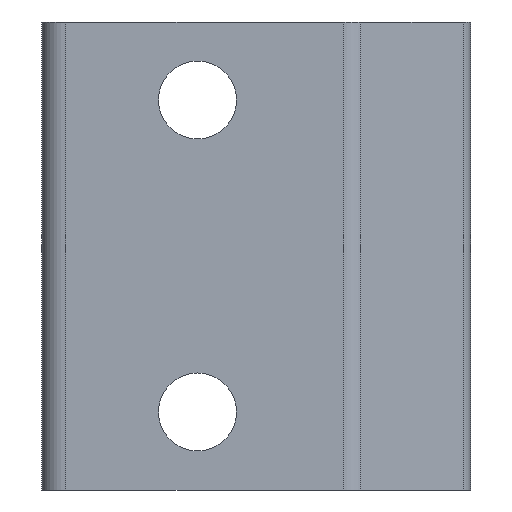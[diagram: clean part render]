
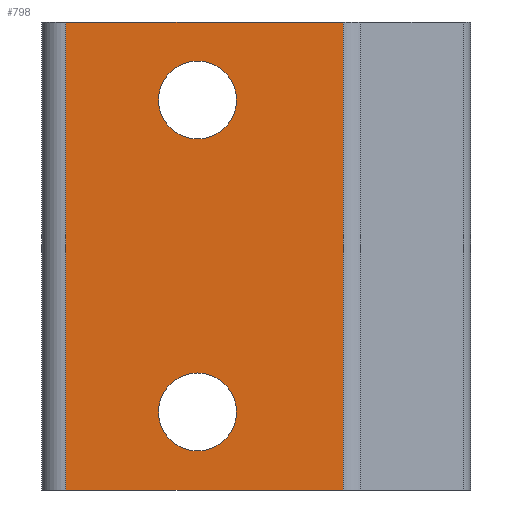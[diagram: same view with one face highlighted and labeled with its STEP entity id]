
A CAD part, left-side view. The second image highlights one B-rep face of the part: STEP entity #798.
In plain terms, the highlighted planar face has unit normal (-1, 0, 0).
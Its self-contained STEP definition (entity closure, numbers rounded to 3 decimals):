
#3 = CARTESIAN_POINT ( 'NONE',  ( -25., 15., 50. ) ) ;
#7 = ORIENTED_EDGE ( 'NONE', *, *, #864, .T. ) ;
#32 = ORIENTED_EDGE ( 'NONE', *, *, #224, .T. ) ;
#86 = EDGE_CURVE ( 'NONE', #881, #134, #782, .T. ) ;
#96 = CIRCLE ( 'NONE', #501, 5. ) ;
#98 = CARTESIAN_POINT ( 'NONE',  ( -25., 15., 50. ) ) ;
#109 = EDGE_LOOP ( 'NONE', ( #293, #173 ) ) ;
#133 = VECTOR ( 'NONE', #973, 1000. ) ;
#134 = VERTEX_POINT ( 'NONE', #482 ) ;
#153 = DIRECTION ( 'NONE',  ( 0., 0., 1. ) ) ;
#159 = FACE_BOUND ( 'NONE', #380, .T. ) ;
#168 = AXIS2_PLACEMENT_3D ( 'NONE', #519, #498, #739 ) ;
#173 = ORIENTED_EDGE ( 'NONE', *, *, #652, .F. ) ;
#211 = CARTESIAN_POINT ( 'NONE',  ( -25., 15., 55. ) ) ;
#223 = VECTOR ( 'NONE', #757, 1000. ) ;
#224 = EDGE_CURVE ( 'NONE', #453, #805, #914, .T. ) ;
#264 = ORIENTED_EDGE ( 'NONE', *, *, #632, .F. ) ;
#278 = DIRECTION ( 'NONE',  ( -1., 0., 0. ) ) ;
#282 = PLANE ( 'NONE',  #168 ) ;
#284 = CARTESIAN_POINT ( 'NONE',  ( -25., -3.716, 60. ) ) ;
#287 = CIRCLE ( 'NONE', #474, 5. ) ;
#293 = ORIENTED_EDGE ( 'NONE', *, *, #612, .F. ) ;
#294 = AXIS2_PLACEMENT_3D ( 'NONE', #98, #823, #845 ) ;
#298 = CARTESIAN_POINT ( 'NONE',  ( -25., 15., 45. ) ) ;
#325 = VECTOR ( 'NONE', #363, 1000. ) ;
#327 = DIRECTION ( 'NONE',  ( -1., 0., 0. ) ) ;
#330 = LINE ( 'NONE', #365, #133 ) ;
#346 = CIRCLE ( 'NONE', #294, 5. ) ;
#363 = DIRECTION ( 'NONE',  ( 0., 0., 1. ) ) ;
#365 = CARTESIAN_POINT ( 'NONE',  ( -25., 31.9, 60. ) ) ;
#380 = EDGE_LOOP ( 'NONE', ( #570, #912 ) ) ;
#393 = DIRECTION ( 'NONE',  ( -1., 0., 0. ) ) ;
#411 = CARTESIAN_POINT ( 'NONE',  ( -25., 15., 10. ) ) ;
#415 = EDGE_LOOP ( 'NONE', ( #32, #7, #264, #693 ) ) ;
#436 = CARTESIAN_POINT ( 'NONE',  ( -25., -3.716, 0. ) ) ;
#442 = CARTESIAN_POINT ( 'NONE',  ( -25., 31.9, 60. ) ) ;
#453 = VERTEX_POINT ( 'NONE', #899 ) ;
#457 = VERTEX_POINT ( 'NONE', #298 ) ;
#474 = AXIS2_PLACEMENT_3D ( 'NONE', #511, #278, #804 ) ;
#482 = CARTESIAN_POINT ( 'NONE',  ( -25., 15., 15. ) ) ;
#495 = VERTEX_POINT ( 'NONE', #806 ) ;
#498 = DIRECTION ( 'NONE',  ( -1., 0., 0. ) ) ;
#501 = AXIS2_PLACEMENT_3D ( 'NONE', #3, #393, #153 ) ;
#511 = CARTESIAN_POINT ( 'NONE',  ( -25., 15., 10. ) ) ;
#519 = CARTESIAN_POINT ( 'NONE',  ( -25., -5., 60. ) ) ;
#556 = CARTESIAN_POINT ( 'NONE',  ( -25., -5., 60. ) ) ;
#570 = ORIENTED_EDGE ( 'NONE', *, *, #883, .F. ) ;
#572 = EDGE_CURVE ( 'NONE', #860, #453, #802, .T. ) ;
#612 = EDGE_CURVE ( 'NONE', #808, #457, #346, .T. ) ;
#632 = EDGE_CURVE ( 'NONE', #860, #495, #796, .T. ) ;
#638 = DIRECTION ( 'NONE',  ( 0., 1., 0. ) ) ;
#652 = EDGE_CURVE ( 'NONE', #457, #808, #96, .T. ) ;
#693 = ORIENTED_EDGE ( 'NONE', *, *, #572, .T. ) ;
#739 = DIRECTION ( 'NONE',  ( 0., 0., 1. ) ) ;
#744 = CARTESIAN_POINT ( 'NONE',  ( -25., 15., 5. ) ) ;
#757 = DIRECTION ( 'NONE',  ( 0., 1., 0. ) ) ;
#766 = FACE_BOUND ( 'NONE', #109, .T. ) ;
#782 = CIRCLE ( 'NONE', #970, 5. ) ;
#784 = FACE_OUTER_BOUND ( 'NONE', #415, .T. ) ;
#796 = LINE ( 'NONE', #927, #223 ) ;
#798 = ADVANCED_FACE ( 'NONE', ( #766, #159, #784 ), #282, .T. ) ;
#802 = LINE ( 'NONE', #284, #325 ) ;
#804 = DIRECTION ( 'NONE',  ( 0., 0., -1. ) ) ;
#805 = VERTEX_POINT ( 'NONE', #442 ) ;
#806 = CARTESIAN_POINT ( 'NONE',  ( -25., 31.9, 0. ) ) ;
#808 = VERTEX_POINT ( 'NONE', #211 ) ;
#823 = DIRECTION ( 'NONE',  ( -1., 0., 0. ) ) ;
#845 = DIRECTION ( 'NONE',  ( 0., 0., 1. ) ) ;
#860 = VERTEX_POINT ( 'NONE', #436 ) ;
#864 = EDGE_CURVE ( 'NONE', #805, #495, #330, .T. ) ;
#870 = VECTOR ( 'NONE', #638, 1000. ) ;
#876 = DIRECTION ( 'NONE',  ( 0., 0., -1. ) ) ;
#881 = VERTEX_POINT ( 'NONE', #744 ) ;
#883 = EDGE_CURVE ( 'NONE', #134, #881, #287, .T. ) ;
#899 = CARTESIAN_POINT ( 'NONE',  ( -25., -3.716, 60. ) ) ;
#912 = ORIENTED_EDGE ( 'NONE', *, *, #86, .F. ) ;
#914 = LINE ( 'NONE', #556, #870 ) ;
#927 = CARTESIAN_POINT ( 'NONE',  ( -25., -5., 0. ) ) ;
#970 = AXIS2_PLACEMENT_3D ( 'NONE', #411, #327, #876 ) ;
#973 = DIRECTION ( 'NONE',  ( 0., 0., -1. ) ) ;
